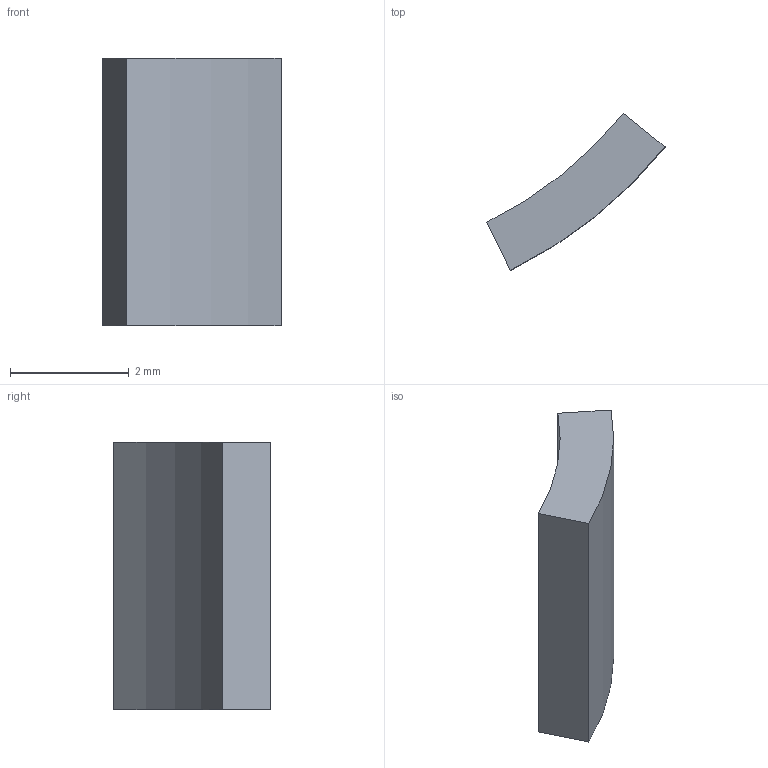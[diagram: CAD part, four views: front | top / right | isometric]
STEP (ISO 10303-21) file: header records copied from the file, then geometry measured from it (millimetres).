
FILE_DESCRIPTION(('Open CASCADE Model'),'2;1');
FILE_NAME('Open CASCADE Shape Model','2026-10-24T17:46:06',('Author'),( 'Open CASCADE'),'Open CASCADE STEP processor 8.0','Open CASCADE 8.0' ,'Unknown');
FILE_SCHEMA(('AUTOMOTIVE_DESIGN { 1 0 10303 214 1 1 1 1 }'));
Length unit declared in the file: millimetre
Products named in the file (1): Open CASCADE STEP translator 8.0 17
Bounding box: 3 x 2.64 x 4.5 mm (x, y, z)
Volume: 12.8 mm3; surface area: 42.2 mm2
Topology: 1 solids, 1 shells, 6 faces, 12 edges, 8 vertices
Faces by surface type: plane 4, cylinder 2
Entity records: 310 total; most frequent: CARTESIAN_POINT 67, DIRECTION 38, ORIENTED_EDGE 24, PCURVE 24, DEFINITIONAL_REPRESENTATION 24, B_SPLINE_CURVE_WITH_KNOTS 16, EDGE_CURVE 12, SURFACE_CURVE 12
